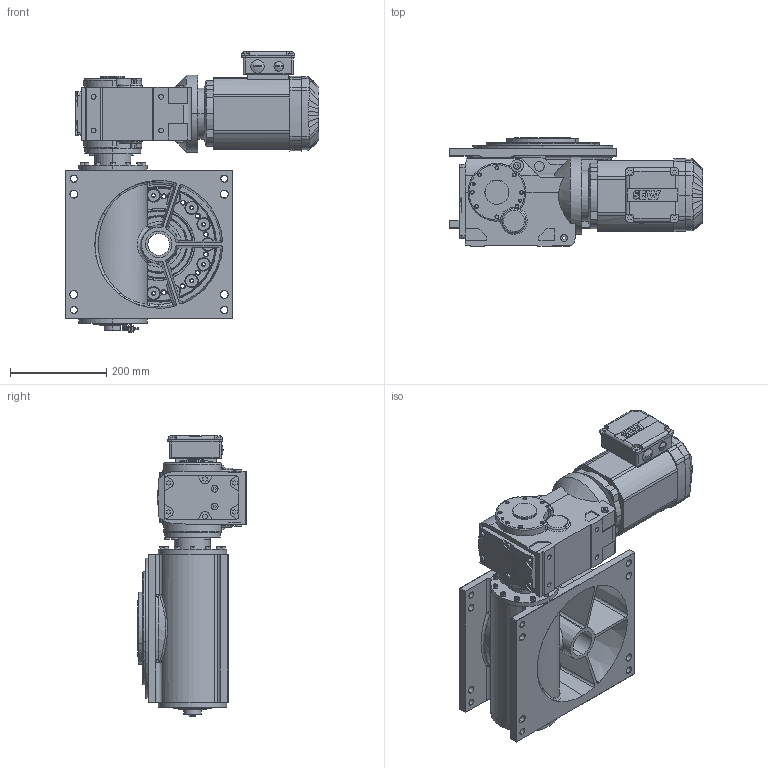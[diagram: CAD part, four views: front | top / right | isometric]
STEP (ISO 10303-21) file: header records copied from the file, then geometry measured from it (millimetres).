
FILE_DESCRIPTION (( 'STEP AP214' ), '1' );
FILE_NAME ('M235_SEW_KA47DRE80M4_D1_15.STEP', '2020-06-17T05:20:34', ( '' ), ( '' ), 'SwSTEP 2.0', 'SolidWorks 2020', '' );
FILE_SCHEMA (( 'AUTOMOTIVE_DESIGN' ));
Length unit declared in the file: millimetre
Products named in the file (1): M235_SEW_KA47DRE80M4_D1_15
Bounding box: 526 x 226 x 581.96 mm (x, y, z)
Surface area: 1204575.8 mm2 (no closed solid volume)
Topology: 0 solids, 91 shells, 1698 faces, 5066 edges, 3383 vertices
Faces by surface type: plane 621, cylinder 585, cone 260, bspline 140, torus 76, sphere 16
Entity records: 86276 total; most frequent: CARTESIAN_POINT 22718, DIRECTION 9519, ORIENTED_EDGE 8657, EDGE_CURVE 5034, AXIS2_PLACEMENT_3D 3517, VERTEX_POINT 3383, VECTOR 2485, LINE 2485
